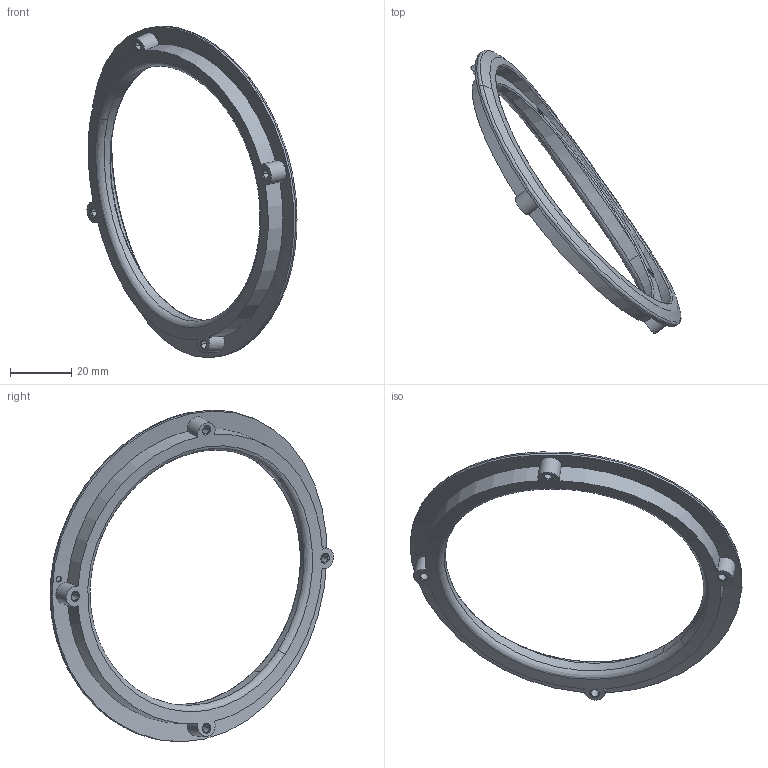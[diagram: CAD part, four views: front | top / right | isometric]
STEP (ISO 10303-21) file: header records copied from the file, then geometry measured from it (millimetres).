
FILE_DESCRIPTION (( 'STEP AP203' ), '1' );
FILE_NAME ('MESH EYELET-1.STEP', '2025-05-22T09:32:26', ( 'user' ), ( '' ), 'SwSTEP 2.0', 'SolidWorks 2024', '' );
FILE_SCHEMA (( 'CONFIG_CONTROL_DESIGN' ));
Length unit declared in the file: millimetre
Products named in the file (1): MESH EYELET-1
Bounding box: 68.75 x 92.79 x 108.54 mm (x, y, z)
Volume: 16824.3 mm3; surface area: 12355.9 mm2
Topology: 1 solids, 1 shells, 75 faces, 210 edges, 148 vertices
Faces by surface type: bspline 34, cylinder 12, cone 11, plane 10, torus 8
Entity records: 17221 total; most frequent: CARTESIAN_POINT 15520, ORIENTED_EDGE 420, EDGE_CURVE 210, DIRECTION 204, VERTEX_POINT 148, B_SPLINE_CURVE_WITH_KNOTS 140, AXIS2_PLACEMENT_3D 92, EDGE_LOOP 88
